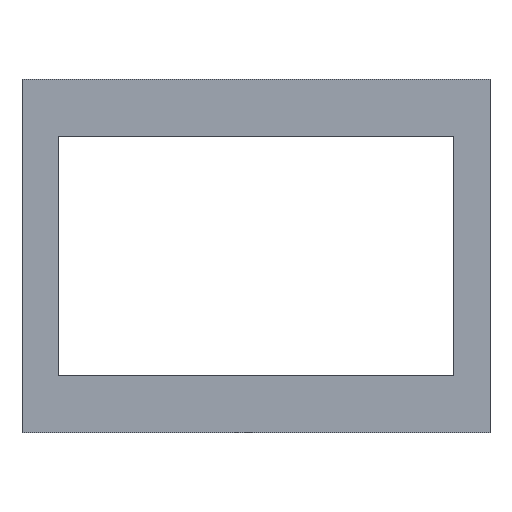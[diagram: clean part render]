
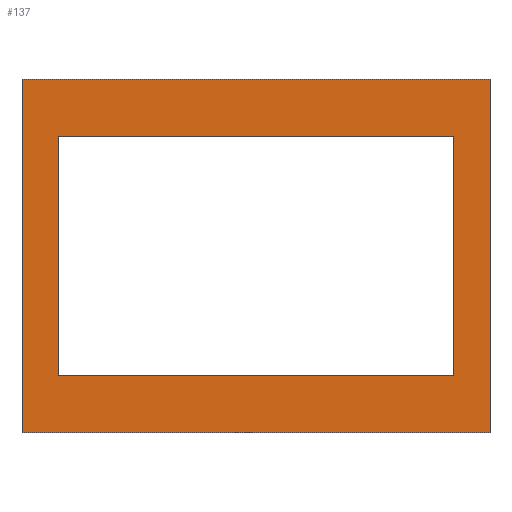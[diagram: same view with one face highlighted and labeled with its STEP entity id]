
A CAD part, front view. The second image highlights one B-rep face of the part: STEP entity #137.
In plain terms, the highlighted planar face has unit normal (0, -1, 0).
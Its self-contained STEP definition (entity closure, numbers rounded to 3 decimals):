
#24 = VERTEX_POINT('',#25);
#25 = CARTESIAN_POINT('',(-64.5,25.5,140.74));
#32 = PLANE('',#33);
#33 = AXIS2_PLACEMENT_3D('',#34,#35,#36);
#34 = CARTESIAN_POINT('',(-64.5,25.5,43.26));
#35 = DIRECTION('',(1.,0.,0.));
#36 = DIRECTION('',(0.,0.,1.));
#44 = PLANE('',#45);
#45 = AXIS2_PLACEMENT_3D('',#46,#47,#48);
#46 = CARTESIAN_POINT('',(-64.5,25.5,140.74));
#47 = DIRECTION('',(0.,0.,1.));
#48 = DIRECTION('',(1.,0.,0.));
#85 = VERTEX_POINT('',#86);
#86 = CARTESIAN_POINT('',(-64.5,25.5,43.26));
#100 = PLANE('',#101);
#101 = AXIS2_PLACEMENT_3D('',#102,#103,#104);
#102 = CARTESIAN_POINT('',(-64.5,25.5,43.26));
#103 = DIRECTION('',(0.,0.,1.));
#104 = DIRECTION('',(1.,0.,0.));
#112 = EDGE_CURVE('',#85,#24,#113,.T.);
#113 = SURFACE_CURVE('',#114,(#118,#125),.PCURVE_S1.);
#114 = LINE('',#115,#116);
#115 = CARTESIAN_POINT('',(-64.5,25.5,43.26));
#116 = VECTOR('',#117,1.);
#117 = DIRECTION('',(0.,0.,1.));
#118 = PCURVE('',#32,#119);
#119 = DEFINITIONAL_REPRESENTATION('',(#120),#124);
#120 = LINE('',#121,#122);
#121 = CARTESIAN_POINT('',(0.,0.));
#122 = VECTOR('',#123,1.);
#123 = DIRECTION('',(1.,0.));
#124 = ( GEOMETRIC_REPRESENTATION_CONTEXT(2) 
PARAMETRIC_REPRESENTATION_CONTEXT() REPRESENTATION_CONTEXT('2D SPACE',''
  ) );
#125 = PCURVE('',#126,#131);
#126 = PLANE('',#127);
#127 = AXIS2_PLACEMENT_3D('',#128,#129,#130);
#128 = CARTESIAN_POINT('',(-64.5,25.5,43.26));
#129 = DIRECTION('',(0.,1.,0.));
#130 = DIRECTION('',(0.,0.,1.));
#131 = DEFINITIONAL_REPRESENTATION('',(#132),#136);
#132 = LINE('',#133,#134);
#133 = CARTESIAN_POINT('',(0.,0.));
#134 = VECTOR('',#135,1.);
#135 = DIRECTION('',(1.,0.));
#136 = ( GEOMETRIC_REPRESENTATION_CONTEXT(2) 
PARAMETRIC_REPRESENTATION_CONTEXT() REPRESENTATION_CONTEXT('2D SPACE',''
  ) );
#137 = ADVANCED_FACE('',(#138,#213),#126,.F.);
#138 = FACE_BOUND('',#139,.T.);
#139 = EDGE_LOOP('',(#140,#170,#191,#192));
#140 = ORIENTED_EDGE('',*,*,#141,.T.);
#141 = EDGE_CURVE('',#142,#144,#146,.T.);
#142 = VERTEX_POINT('',#143);
#143 = CARTESIAN_POINT('',(64.5,25.5,43.26));
#144 = VERTEX_POINT('',#145);
#145 = CARTESIAN_POINT('',(64.5,25.5,140.74));
#146 = SURFACE_CURVE('',#147,(#151,#158),.PCURVE_S1.);
#147 = LINE('',#148,#149);
#148 = CARTESIAN_POINT('',(64.5,25.5,43.26));
#149 = VECTOR('',#150,1.);
#150 = DIRECTION('',(0.,0.,1.));
#151 = PCURVE('',#126,#152);
#152 = DEFINITIONAL_REPRESENTATION('',(#153),#157);
#153 = LINE('',#154,#155);
#154 = CARTESIAN_POINT('',(0.,129.));
#155 = VECTOR('',#156,1.);
#156 = DIRECTION('',(1.,0.));
#157 = ( GEOMETRIC_REPRESENTATION_CONTEXT(2) 
PARAMETRIC_REPRESENTATION_CONTEXT() REPRESENTATION_CONTEXT('2D SPACE',''
  ) );
#158 = PCURVE('',#159,#164);
#159 = PLANE('',#160);
#160 = AXIS2_PLACEMENT_3D('',#161,#162,#163);
#161 = CARTESIAN_POINT('',(64.5,25.5,43.26));
#162 = DIRECTION('',(1.,0.,0.));
#163 = DIRECTION('',(0.,0.,1.));
#164 = DEFINITIONAL_REPRESENTATION('',(#165),#169);
#165 = LINE('',#166,#167);
#166 = CARTESIAN_POINT('',(0.,0.));
#167 = VECTOR('',#168,1.);
#168 = DIRECTION('',(1.,0.));
#169 = ( GEOMETRIC_REPRESENTATION_CONTEXT(2) 
PARAMETRIC_REPRESENTATION_CONTEXT() REPRESENTATION_CONTEXT('2D SPACE',''
  ) );
#170 = ORIENTED_EDGE('',*,*,#171,.F.);
#171 = EDGE_CURVE('',#24,#144,#172,.T.);
#172 = SURFACE_CURVE('',#173,(#177,#184),.PCURVE_S1.);
#173 = LINE('',#174,#175);
#174 = CARTESIAN_POINT('',(-64.5,25.5,140.74));
#175 = VECTOR('',#176,1.);
#176 = DIRECTION('',(1.,0.,0.));
#177 = PCURVE('',#126,#178);
#178 = DEFINITIONAL_REPRESENTATION('',(#179),#183);
#179 = LINE('',#180,#181);
#180 = CARTESIAN_POINT('',(97.48,0.));
#181 = VECTOR('',#182,1.);
#182 = DIRECTION('',(0.,1.));
#183 = ( GEOMETRIC_REPRESENTATION_CONTEXT(2) 
PARAMETRIC_REPRESENTATION_CONTEXT() REPRESENTATION_CONTEXT('2D SPACE',''
  ) );
#184 = PCURVE('',#44,#185);
#185 = DEFINITIONAL_REPRESENTATION('',(#186),#190);
#186 = LINE('',#187,#188);
#187 = CARTESIAN_POINT('',(0.,0.));
#188 = VECTOR('',#189,1.);
#189 = DIRECTION('',(1.,0.));
#190 = ( GEOMETRIC_REPRESENTATION_CONTEXT(2) 
PARAMETRIC_REPRESENTATION_CONTEXT() REPRESENTATION_CONTEXT('2D SPACE',''
  ) );
#191 = ORIENTED_EDGE('',*,*,#112,.F.);
#192 = ORIENTED_EDGE('',*,*,#193,.T.);
#193 = EDGE_CURVE('',#85,#142,#194,.T.);
#194 = SURFACE_CURVE('',#195,(#199,#206),.PCURVE_S1.);
#195 = LINE('',#196,#197);
#196 = CARTESIAN_POINT('',(-64.5,25.5,43.26));
#197 = VECTOR('',#198,1.);
#198 = DIRECTION('',(1.,0.,0.));
#199 = PCURVE('',#126,#200);
#200 = DEFINITIONAL_REPRESENTATION('',(#201),#205);
#201 = LINE('',#202,#203);
#202 = CARTESIAN_POINT('',(0.,0.));
#203 = VECTOR('',#204,1.);
#204 = DIRECTION('',(0.,1.));
#205 = ( GEOMETRIC_REPRESENTATION_CONTEXT(2) 
PARAMETRIC_REPRESENTATION_CONTEXT() REPRESENTATION_CONTEXT('2D SPACE',''
  ) );
#206 = PCURVE('',#100,#207);
#207 = DEFINITIONAL_REPRESENTATION('',(#208),#212);
#208 = LINE('',#209,#210);
#209 = CARTESIAN_POINT('',(0.,0.));
#210 = VECTOR('',#211,1.);
#211 = DIRECTION('',(1.,0.));
#212 = ( GEOMETRIC_REPRESENTATION_CONTEXT(2) 
PARAMETRIC_REPRESENTATION_CONTEXT() REPRESENTATION_CONTEXT('2D SPACE',''
  ) );
#213 = FACE_BOUND('',#214,.T.);
#214 = EDGE_LOOP('',(#215,#245,#273,#301));
#215 = ORIENTED_EDGE('',*,*,#216,.F.);
#216 = EDGE_CURVE('',#217,#219,#221,.T.);
#217 = VERTEX_POINT('',#218);
#218 = CARTESIAN_POINT('',(54.5,25.5,59.));
#219 = VERTEX_POINT('',#220);
#220 = CARTESIAN_POINT('',(54.5,25.5,125.));
#221 = SURFACE_CURVE('',#222,(#226,#233),.PCURVE_S1.);
#222 = LINE('',#223,#224);
#223 = CARTESIAN_POINT('',(54.5,25.5,43.26));
#224 = VECTOR('',#225,1.);
#225 = DIRECTION('',(0.,0.,1.));
#226 = PCURVE('',#126,#227);
#227 = DEFINITIONAL_REPRESENTATION('',(#228),#232);
#228 = LINE('',#229,#230);
#229 = CARTESIAN_POINT('',(0.,119.));
#230 = VECTOR('',#231,1.);
#231 = DIRECTION('',(1.,0.));
#232 = ( GEOMETRIC_REPRESENTATION_CONTEXT(2) 
PARAMETRIC_REPRESENTATION_CONTEXT() REPRESENTATION_CONTEXT('2D SPACE',''
  ) );
#233 = PCURVE('',#234,#239);
#234 = PLANE('',#235);
#235 = AXIS2_PLACEMENT_3D('',#236,#237,#238);
#236 = CARTESIAN_POINT('',(54.5,25.,59.));
#237 = DIRECTION('',(1.,0.,0.));
#238 = DIRECTION('',(0.,0.,1.));
#239 = DEFINITIONAL_REPRESENTATION('',(#240),#244);
#240 = LINE('',#241,#242);
#241 = CARTESIAN_POINT('',(-15.74,-0.5));
#242 = VECTOR('',#243,1.);
#243 = DIRECTION('',(1.,0.));
#244 = ( GEOMETRIC_REPRESENTATION_CONTEXT(2) 
PARAMETRIC_REPRESENTATION_CONTEXT() REPRESENTATION_CONTEXT('2D SPACE',''
  ) );
#245 = ORIENTED_EDGE('',*,*,#246,.F.);
#246 = EDGE_CURVE('',#247,#217,#249,.T.);
#247 = VERTEX_POINT('',#248);
#248 = CARTESIAN_POINT('',(-54.5,25.5,59.));
#249 = SURFACE_CURVE('',#250,(#254,#261),.PCURVE_S1.);
#250 = LINE('',#251,#252);
#251 = CARTESIAN_POINT('',(-54.5,25.5,59.));
#252 = VECTOR('',#253,1.);
#253 = DIRECTION('',(1.,0.,0.));
#254 = PCURVE('',#126,#255);
#255 = DEFINITIONAL_REPRESENTATION('',(#256),#260);
#256 = LINE('',#257,#258);
#257 = CARTESIAN_POINT('',(15.74,10.));
#258 = VECTOR('',#259,1.);
#259 = DIRECTION('',(0.,1.));
#260 = ( GEOMETRIC_REPRESENTATION_CONTEXT(2) 
PARAMETRIC_REPRESENTATION_CONTEXT() REPRESENTATION_CONTEXT('2D SPACE',''
  ) );
#261 = PCURVE('',#262,#267);
#262 = PLANE('',#263);
#263 = AXIS2_PLACEMENT_3D('',#264,#265,#266);
#264 = CARTESIAN_POINT('',(-54.5,25.,59.));
#265 = DIRECTION('',(0.,0.,1.));
#266 = DIRECTION('',(1.,0.,0.));
#267 = DEFINITIONAL_REPRESENTATION('',(#268),#272);
#268 = LINE('',#269,#270);
#269 = CARTESIAN_POINT('',(0.,0.5));
#270 = VECTOR('',#271,1.);
#271 = DIRECTION('',(1.,0.));
#272 = ( GEOMETRIC_REPRESENTATION_CONTEXT(2) 
PARAMETRIC_REPRESENTATION_CONTEXT() REPRESENTATION_CONTEXT('2D SPACE',''
  ) );
#273 = ORIENTED_EDGE('',*,*,#274,.T.);
#274 = EDGE_CURVE('',#247,#275,#277,.T.);
#275 = VERTEX_POINT('',#276);
#276 = CARTESIAN_POINT('',(-54.5,25.5,125.));
#277 = SURFACE_CURVE('',#278,(#282,#289),.PCURVE_S1.);
#278 = LINE('',#279,#280);
#279 = CARTESIAN_POINT('',(-54.5,25.5,59.));
#280 = VECTOR('',#281,1.);
#281 = DIRECTION('',(0.,0.,1.));
#282 = PCURVE('',#126,#283);
#283 = DEFINITIONAL_REPRESENTATION('',(#284),#288);
#284 = LINE('',#285,#286);
#285 = CARTESIAN_POINT('',(15.74,10.));
#286 = VECTOR('',#287,1.);
#287 = DIRECTION('',(1.,0.));
#288 = ( GEOMETRIC_REPRESENTATION_CONTEXT(2) 
PARAMETRIC_REPRESENTATION_CONTEXT() REPRESENTATION_CONTEXT('2D SPACE',''
  ) );
#289 = PCURVE('',#290,#295);
#290 = PLANE('',#291);
#291 = AXIS2_PLACEMENT_3D('',#292,#293,#294);
#292 = CARTESIAN_POINT('',(-54.5,25.,59.));
#293 = DIRECTION('',(1.,0.,0.));
#294 = DIRECTION('',(0.,0.,1.));
#295 = DEFINITIONAL_REPRESENTATION('',(#296),#300);
#296 = LINE('',#297,#298);
#297 = CARTESIAN_POINT('',(0.,-0.5));
#298 = VECTOR('',#299,1.);
#299 = DIRECTION('',(1.,0.));
#300 = ( GEOMETRIC_REPRESENTATION_CONTEXT(2) 
PARAMETRIC_REPRESENTATION_CONTEXT() REPRESENTATION_CONTEXT('2D SPACE',''
  ) );
#301 = ORIENTED_EDGE('',*,*,#302,.T.);
#302 = EDGE_CURVE('',#275,#219,#303,.T.);
#303 = SURFACE_CURVE('',#304,(#308,#315),.PCURVE_S1.);
#304 = LINE('',#305,#306);
#305 = CARTESIAN_POINT('',(-64.5,25.5,125.));
#306 = VECTOR('',#307,1.);
#307 = DIRECTION('',(1.,0.,0.));
#308 = PCURVE('',#126,#309);
#309 = DEFINITIONAL_REPRESENTATION('',(#310),#314);
#310 = LINE('',#311,#312);
#311 = CARTESIAN_POINT('',(81.74,0.));
#312 = VECTOR('',#313,1.);
#313 = DIRECTION('',(0.,1.));
#314 = ( GEOMETRIC_REPRESENTATION_CONTEXT(2) 
PARAMETRIC_REPRESENTATION_CONTEXT() REPRESENTATION_CONTEXT('2D SPACE',''
  ) );
#315 = PCURVE('',#316,#321);
#316 = PLANE('',#317);
#317 = AXIS2_PLACEMENT_3D('',#318,#319,#320);
#318 = CARTESIAN_POINT('',(-54.5,25.,125.));
#319 = DIRECTION('',(0.,0.,1.));
#320 = DIRECTION('',(1.,0.,0.));
#321 = DEFINITIONAL_REPRESENTATION('',(#322),#326);
#322 = LINE('',#323,#324);
#323 = CARTESIAN_POINT('',(-10.,0.5));
#324 = VECTOR('',#325,1.);
#325 = DIRECTION('',(1.,0.));
#326 = ( GEOMETRIC_REPRESENTATION_CONTEXT(2) 
PARAMETRIC_REPRESENTATION_CONTEXT() REPRESENTATION_CONTEXT('2D SPACE',''
  ) );
